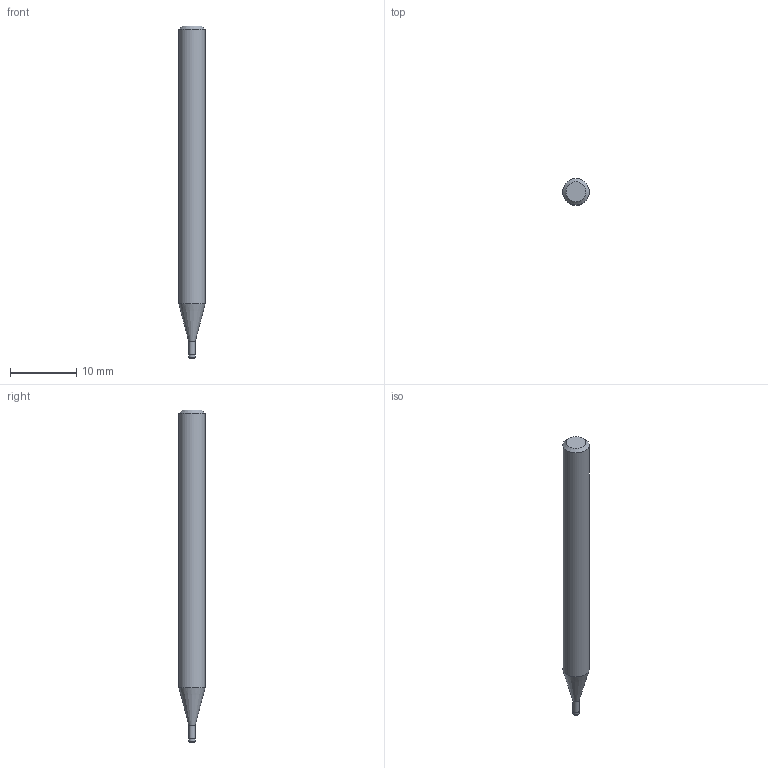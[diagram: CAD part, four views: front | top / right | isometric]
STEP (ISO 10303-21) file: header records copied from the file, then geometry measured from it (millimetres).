
FILE_DESCRIPTION((''),'2;1');
FILE_NAME('C:\Users\nsx150\AppData\Local\Temp\Mastercam 2021\LJSIDMOTM8\TEMP.step','2021-08-03T14:22:01',(''),(''),'STEP Write','Mastercam 2021 ... CNC Software, Inc.','');
FILE_SCHEMA(('AUTOMOTIVE_DESIGN'));
Length unit declared in the file: millimetre
Products named in the file (1): None
Bounding box: 4 x 4 x 50 mm (x, y, z)
Volume: 556.6 mm3; surface area: 589.4 mm2
Topology: 2 solids, 2 shells, 10 faces, 14 edges, 8 vertices
Faces by surface type: plane 4, cylinder 3, cone 2, torus 1
Full cylindrical faces by diameter (mm): 0.95 x1, 1 x1, 4 x1
Entity records: 232 total; most frequent: DIRECTION 40, CARTESIAN_POINT 28, AXIS2_PLACEMENT_3D 20, ORIENTED_EDGE 16, EDGE_LOOP 16, STYLED_ITEM 13, ADVANCED_FACE 10, FACE_BOUND 10
